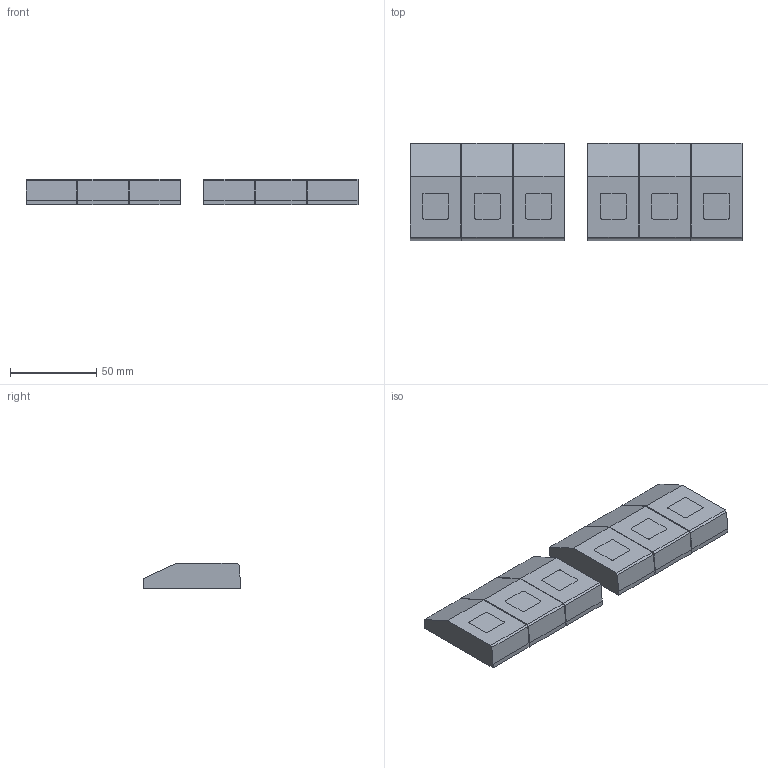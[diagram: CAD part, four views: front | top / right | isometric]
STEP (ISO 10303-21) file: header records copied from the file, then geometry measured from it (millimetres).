
FILE_DESCRIPTION(/* description */ (''),/* implementation_level */ '2;1');
FILE_NAME(/* name */ 'LA-1371-2409-A.stp',/* time_stamp */ '2015-01-30T10:53:26+00:00',/* author */ (''),/* organization */ (''),/* preprocessor_version */ 'ST-DEVELOPER v11',/* originating_system */ 'SIEMENS PLM Software NX 7.5',/* authorisation */ '');
FILE_SCHEMA (('AUTOMOTIVE_DESIGN { 1 0 10303 214 1 1 1 1 }'));
Length unit declared in the file: millimetre
Products named in the file (1): rt139FCFzd9q
Bounding box: 192.5 x 56.43 x 14.85 mm (x, y, z)
Volume: 132063.4 mm3; surface area: 32695.3 mm2
Topology: 6 solids, 6 shells, 60 faces, 174 edges, 132 vertices
Faces by surface type: plane 60
Entity records: 2497 total; most frequent: CARTESIAN_POINT 367, ORIENTED_EDGE 348, DIRECTION 320, EDGE_CURVE 174, LINE 150, VECTOR 150, VERTEX_POINT 132, AXIS2_PLACEMENT_3D 85
